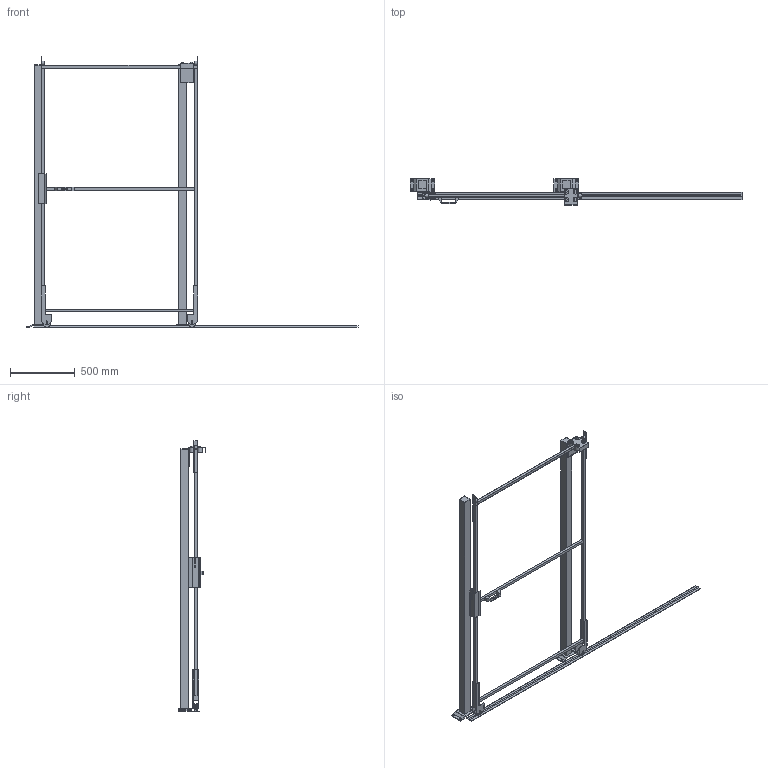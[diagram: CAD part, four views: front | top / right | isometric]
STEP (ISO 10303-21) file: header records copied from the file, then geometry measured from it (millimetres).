
FILE_DESCRIPTION(/* description */ (''),/* implementation_level */ '2;1');
FILE_NAME(/* name */ 'C:\SafeGuarding\ELABORATI\Drawing5_2025-04-02-09-46-34.stp',/* time_stamp */ '2025-04-02T09:46:37+02:00',/* author */ ('admin'),/* organization */ (''),/* preprocessor_version */ 'ST-DEVELOPER v18.1',/* originating_system */ 'AutoCAD Mechanical',/* authorisation */ '');
FILE_SCHEMA (('AUTOMOTIVE_DESIGN { 1 0 10303 214 3 1 1 }'));
Length unit declared in the file: millimetre
Products named in the file (3): Product; R_VFPA.REPE20.12001900; P_VFMA.V260SDU.2020
Assembly tree (3 placements, depth 2):
  Product
    R_VFPA.REPE20.12001900
    P_VFMA.V260SDU.2020  x2
Bounding box: 2561 x 210 x 2090 mm (x, y, z)
Volume: 19191668.4 mm3; surface area: 2574934 mm2
Topology: 33 solids, 44 shells, 338 faces, 1089 edges, 1077 vertices
Faces by surface type: plane 292, cylinder 40, cone 4, sphere 2
Full cylindrical faces by diameter (mm): 9 x4, 11 x8, 13 x4, 18 x4, 30 x2, 36 x4, 58 x4
Entity records: 11265 total; most frequent: CARTESIAN_POINT 2476, DIRECTION 1723, ORIENTED_EDGE 1532, EDGE_CURVE 815, LINE 751, VECTOR 751, VERTEX_POINT 584, AXIS2_PLACEMENT_3D 486
